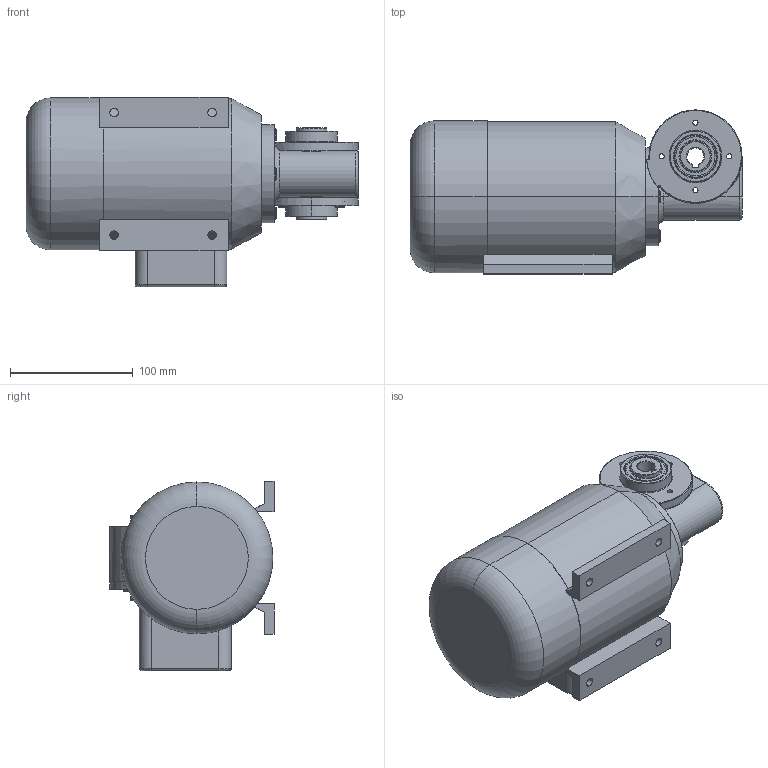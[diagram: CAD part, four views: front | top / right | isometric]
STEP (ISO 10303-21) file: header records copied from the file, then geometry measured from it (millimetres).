
FILE_DESCRIPTION (( 'STEP AP214' ), '1' );
FILE_NAME ('SN3BH_120W_180W_250W_C.STEP', '2021-03-16T12:44:54', ( '' ), ( '' ), 'SwSTEP 2.0', 'SolidWorks 2019', '' );
FILE_SCHEMA (( 'AUTOMOTIVE_DESIGN' ));
Length unit declared in the file: millimetre
Products named in the file (1): SN3BH_120W_180W_250W_C
Bounding box: 271 x 134 x 154.5 mm (x, y, z)
Surface area: 157792.5 mm2 (no closed solid volume)
Topology: 0 solids, 16 shells, 288 faces, 822 edges, 526 vertices
Faces by surface type: cylinder 107, plane 96, cone 66, torus 13, bspline 6
Entity records: 13053 total; most frequent: CARTESIAN_POINT 2299, DIRECTION 1708, ORIENTED_EDGE 1400, EDGE_CURVE 806, AXIS2_PLACEMENT_3D 659, VERTEX_POINT 526, LINE 390, VECTOR 390
